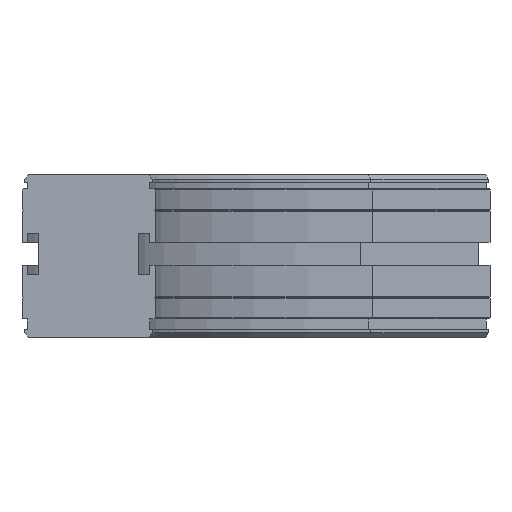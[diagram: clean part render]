
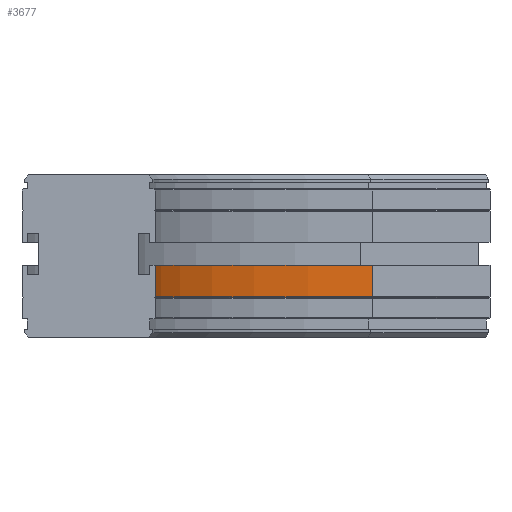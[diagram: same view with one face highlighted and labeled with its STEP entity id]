
A CAD part, left-side view. The second image highlights one B-rep face of the part: STEP entity #3677.
In plain terms, the highlighted cylindrical face has radius 357 mm (diameter 714 mm), a partial arc.
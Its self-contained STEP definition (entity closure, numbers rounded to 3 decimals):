
#2334=CARTESIAN_POINT('',(332.437,-136.563,-58.5));
#2335=VERTEX_POINT('',#2334);
#2365=CARTESIAN_POINT('',(332.437,-136.563,-43.5));
#2366=VERTEX_POINT('',#2365);
#2373=CARTESIAN_POINT('',(332.437,-136.563,-58.5));
#2374=DIRECTION('',(0.0,0.0,1.0));
#2375=VECTOR('',#2374,15.);
#2376=LINE('',#2373,#2375);
#2377=EDGE_CURVE('',#2335,#2366,#2376,.T.);
#3634=CARTESIAN_POINT('',(80.0,-32.0,-58.5));
#3635=VERTEX_POINT('',#3634);
#3636=CARTESIAN_POINT('',(80.,-389.,-58.5));
#3637=DIRECTION('',(0.0,0.0,-1.0));
#3638=DIRECTION('',(-0.707,-0.707,0.0));
#3639=AXIS2_PLACEMENT_3D('',#3636,#3637,#3638);
#3640=CIRCLE('',#3639,357.);
#3641=EDGE_CURVE('',#3635,#2335,#3640,.T.);
#3653=CARTESIAN_POINT('',(80.,-389.,-51.));
#3654=DIRECTION('',(0.0,0.0,-1.0));
#3655=DIRECTION('',(-0.707,-0.707,0.0));
#3656=AXIS2_PLACEMENT_3D('',#3653,#3654,#3655);
#3657=CYLINDRICAL_SURFACE('',#3656,357.);
#3658=ORIENTED_EDGE('',*,*,#2377,.T.);
#3659=CARTESIAN_POINT('',(80.0,-32.0,-43.5));
#3660=VERTEX_POINT('',#3659);
#3661=CARTESIAN_POINT('',(80.,-389.,-43.5));
#3662=DIRECTION('',(0.0,0.0,-1.0));
#3663=DIRECTION('',(-0.707,-0.707,0.0));
#3664=AXIS2_PLACEMENT_3D('',#3661,#3662,#3663);
#3665=CIRCLE('',#3664,357.);
#3666=EDGE_CURVE('',#3660,#2366,#3665,.T.);
#3667=ORIENTED_EDGE('',*,*,#3666,.F.);
#3668=CARTESIAN_POINT('',(80.0,-32.0,-58.5));
#3669=DIRECTION('',(0.0,0.0,1.0));
#3670=VECTOR('',#3669,15.);
#3671=LINE('',#3668,#3670);
#3672=EDGE_CURVE('',#3635,#3660,#3671,.T.);
#3673=ORIENTED_EDGE('',*,*,#3672,.F.);
#3674=ORIENTED_EDGE('',*,*,#3641,.T.);
#3675=EDGE_LOOP('',(#3658,#3667,#3673,#3674));
#3676=FACE_OUTER_BOUND('',#3675,.T.);
#3677=ADVANCED_FACE('',(#3676),#3657,.F.);
